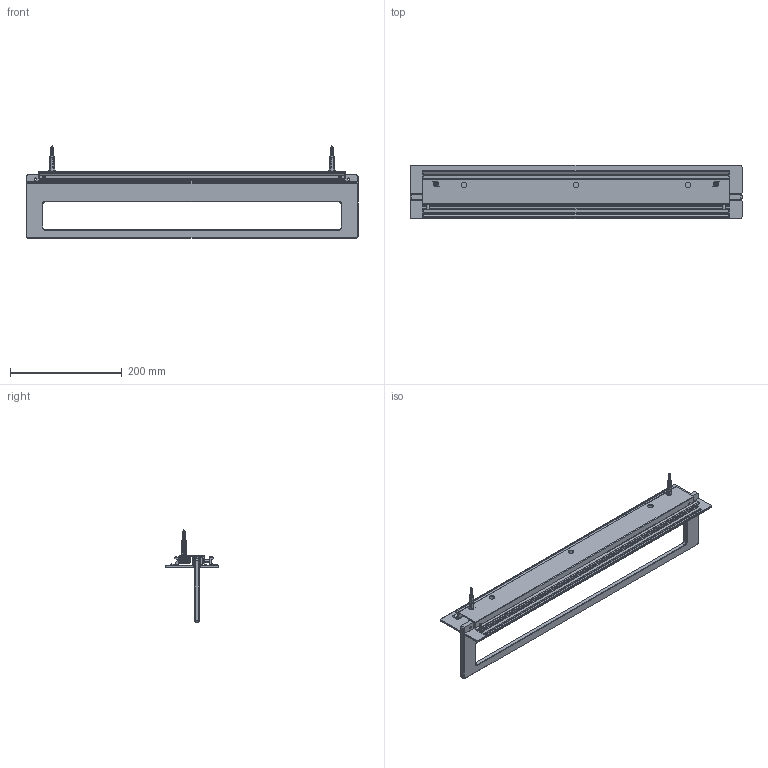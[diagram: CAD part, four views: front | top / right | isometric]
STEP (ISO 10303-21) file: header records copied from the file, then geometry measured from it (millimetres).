
FILE_DESCRIPTION (( 'STEP AP203' ), '1' );
FILE_NAME ('Z-7090-5-600.STEP', '2025-10-14T09:23:37', ( '' ), ( '' ), 'SwSTEP 2.0', 'SolidWorks 2025', '' );
FILE_SCHEMA (( 'CONFIG_CONTROL_DESIGN' ));
Length unit declared in the file: millimetre
Products named in the file (10): DIN 913_M5x12; Z-7090-007-Lc_593; Z-7090-002-Lc_550; Kołek rozporowy_Fischer DuoPower 6x30; Uszczelka typu U_550mm; Z-7090-5-600; DIN 913_M4x5; Z-7090-001-Lc_593; Z-7090-003; wkret_z_lbem_stozkowym_ph_Ø4,5x60  DIN 7997
Assembly tree (14 placements, depth 2):
  Z-7090-5-600
    Z-7090-002-Lc_550
    Z-7090-001-Lc_593
    Z-7090-003  x2
    wkret_z_lbem_stozkowym_ph_Ø4,5x60  DIN 7997  x2
    DIN 913_M4x5  x2
    Kołek rozporowy_Fischer DuoPower 6x30  x2
    Uszczelka typu U_550mm
    Z-7090-007-Lc_593
    DIN 913_M5x12  x2
Bounding box: 593 x 95 x 165.04 mm (x, y, z)
Volume: 743358.8 mm3; surface area: 426979.2 mm2
Topology: 14 solids, 14 shells, 863 faces, 2387 edges, 1574 vertices
Faces by surface type: cylinder 562, plane 221, cone 52, bspline 20, sphere 8
Entity records: 29342 total; most frequent: CARTESIAN_POINT 15236, ORIENTED_EDGE 3010, DIRECTION 2385, EDGE_CURVE 1505, VERTEX_POINT 991, AXIS2_PLACEMENT_3D 818, VECTOR 749, LINE 749
